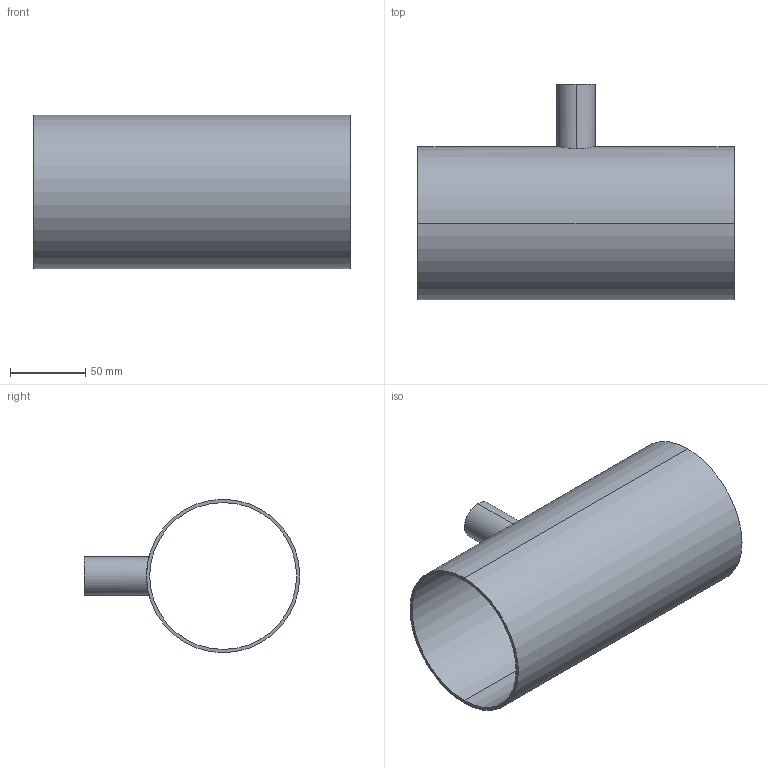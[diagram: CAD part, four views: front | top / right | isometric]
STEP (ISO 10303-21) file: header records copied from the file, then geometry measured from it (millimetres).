
FILE_DESCRIPTION (( 'STEP AP214' ), '1' );
FILE_NAME ('TE7RWWW6L4.0x1.0-...STEP', '2016-05-24T04:32:34', ( 'eran' ), ( '' ), 'SwSTEP 2.0', 'SolidWorks 2016', '' );
FILE_SCHEMA (( 'AUTOMOTIVE_DESIGN' ));
Length unit declared in the file: millimetre
Products named in the file (1): TE7RWWW6L4.0x1.0-..
Bounding box: 209.6 x 142.9 x 101.6 mm (x, y, z)
Volume: 142587 mm3; surface area: 137986.7 mm2
Topology: 1 solids, 1 shells, 11 faces, 24 edges, 16 vertices
Faces by surface type: cylinder 8, plane 3
Entity records: 544 total; most frequent: CARTESIAN_POINT 252, DIRECTION 56, ORIENTED_EDGE 48, EDGE_CURVE 24, AXIS2_PLACEMENT_3D 24, VERTEX_POINT 16, EDGE_LOOP 16, CIRCLE 12
